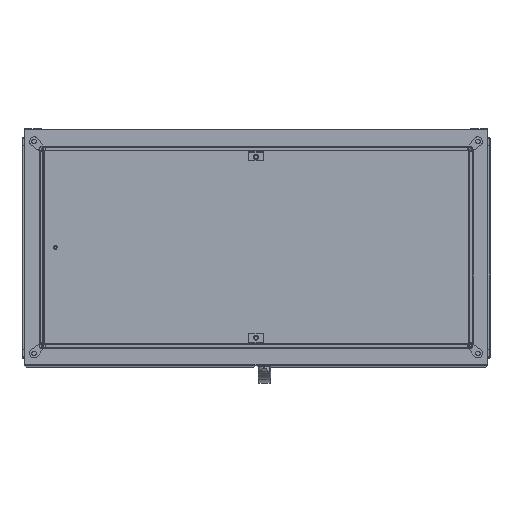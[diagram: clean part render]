
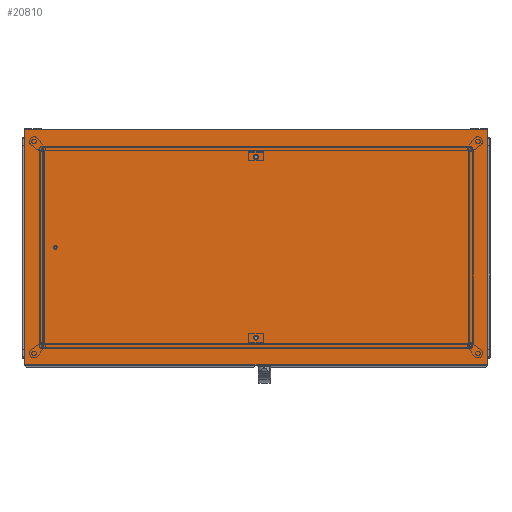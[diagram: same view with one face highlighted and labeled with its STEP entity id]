
A CAD part, top view. The second image highlights one B-rep face of the part: STEP entity #20810.
In plain terms, the highlighted planar face has unit normal (0, 0, 1) as drawn and (0, -1, 0) by its records, which use the part's own axes.
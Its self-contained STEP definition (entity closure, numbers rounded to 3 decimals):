
#1352=CIRCLE('',#22715,6.318);
#1353=CIRCLE('',#22716,6.318);
#5964=ORIENTED_EDGE('',*,*,#9848,.F.);
#5965=ORIENTED_EDGE('',*,*,#9861,.F.);
#5966=ORIENTED_EDGE('',*,*,#9807,.F.);
#5967=ORIENTED_EDGE('',*,*,#9854,.F.);
#5968=ORIENTED_EDGE('',*,*,#9868,.F.);
#5969=ORIENTED_EDGE('',*,*,#9869,.F.);
#9807=EDGE_CURVE('',#12089,#12090,#14107,.T.);
#9848=EDGE_CURVE('',#12124,#12125,#14137,.T.);
#9854=EDGE_CURVE('',#12125,#12089,#14142,.T.);
#9861=EDGE_CURVE('',#12090,#12124,#14149,.T.);
#9868=EDGE_CURVE('',#12138,#12138,#1352,.T.);
#9869=EDGE_CURVE('',#12139,#12139,#1353,.T.);
#12089=VERTEX_POINT('',#34285);
#12090=VERTEX_POINT('',#34287);
#12124=VERTEX_POINT('',#34365);
#12125=VERTEX_POINT('',#34367);
#12138=VERTEX_POINT('',#34403);
#12139=VERTEX_POINT('',#34405);
#14107=LINE('',#34286,#16148);
#14137=LINE('',#34366,#16178);
#14142=LINE('',#34378,#16183);
#14149=LINE('',#34390,#16190);
#16148=VECTOR('',#27623,1000.);
#16178=VECTOR('',#27683,1000.);
#16183=VECTOR('',#27692,1000.);
#16190=VECTOR('',#27701,1000.);
#17637=EDGE_LOOP('',(#5964,#5965,#5966,#5967));
#17638=EDGE_LOOP('',(#5968));
#17639=EDGE_LOOP('',(#5969));
#18924=FACE_BOUND('',#17637,.T.);
#18925=FACE_BOUND('',#17638,.T.);
#18926=FACE_BOUND('',#17639,.T.);
#19784=PLANE('',#22714);
#20810=ADVANCED_FACE('',(#18924,#18925,#18926),#19784,.F.);
#22714=AXIS2_PLACEMENT_3D('',#34401,#27708,#27709);
#22715=AXIS2_PLACEMENT_3D('',#34402,#27710,#27711);
#22716=AXIS2_PLACEMENT_3D('',#34404,#27712,#27713);
#27623=DIRECTION('',(1.,0.,0.));
#27683=DIRECTION('',(-1.,0.,0.));
#27692=DIRECTION('',(0.,0.,1.));
#27701=DIRECTION('',(0.,0.,-1.));
#27708=DIRECTION('',(0.,1.,0.));
#27709=DIRECTION('',(0.,0.,1.));
#27710=DIRECTION('',(0.,-1.,0.));
#27711=DIRECTION('',(0.,0.,-1.));
#27712=DIRECTION('',(0.,-1.,0.));
#27713=DIRECTION('',(0.,0.,-1.));
#34285=CARTESIAN_POINT('',(-599.5,0.,305.5));
#34286=CARTESIAN_POINT('',(-599.5,0.,305.5));
#34287=CARTESIAN_POINT('',(599.5,0.,305.5));
#34365=CARTESIAN_POINT('',(599.5,0.,-305.5));
#34366=CARTESIAN_POINT('',(599.5,0.,-305.5));
#34367=CARTESIAN_POINT('',(-599.5,0.,-305.5));
#34378=CARTESIAN_POINT('',(-599.5,0.,-305.5));
#34390=CARTESIAN_POINT('',(599.5,0.,305.5));
#34401=CARTESIAN_POINT('',(0.,0.,0.));
#34402=CARTESIAN_POINT('',(0.,0.,234.));
#34403=CARTESIAN_POINT('',(0.,0.,227.682));
#34404=CARTESIAN_POINT('',(0.,0.,-234.));
#34405=CARTESIAN_POINT('',(0.,0.,-240.318));
